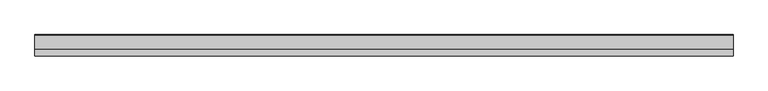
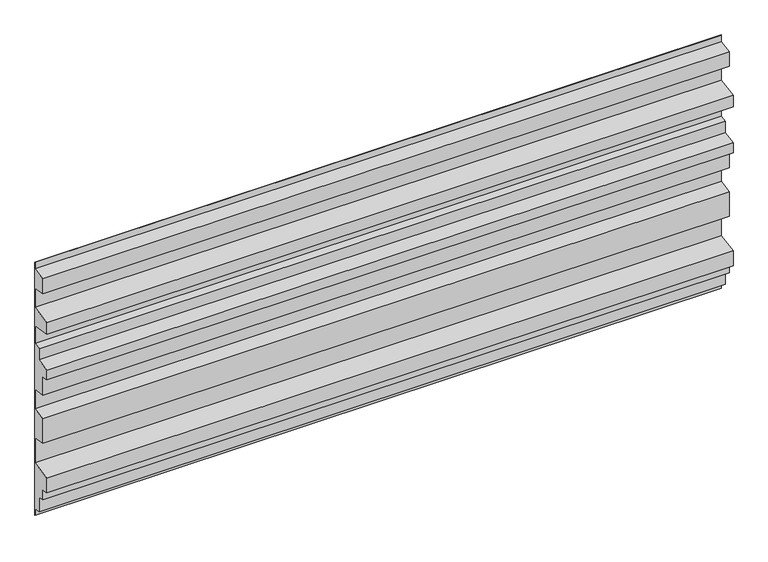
"""IFC4 building model written with IfcOpenShell, lengths in millimetres: plate geometry, ATELIERS 3S_NEW YORK MANHATTAN 780_HORIZONTAL : AZURO."""

from ifc_helpers import new_model, si_unit, frame, origin, place, context, project, spatial, polyline, outline, extrude, source, transform, mapped, element, save


def plate_61fd1416(model_context):
    return source(origin(), model_context, "Body", "SweptSolid", [
        extrude(outline(polyline([(-40.75, 752.9516131), (-0.8, 759.995876), (-0.8, 780.0), (0.0, 780.0), (0.0, 0.0), (-0.8, 0.0), (-0.8, 19.6941775), (-20.7501589, 23.211221), (-20.7501589, 68.2118488), (-40.7500015, 71.7384174), (-40.7500015, 101.7384166), (-60.7500001, 105.2649565), (-60.7500001, 150.8942812), (-0.75, 161.4739), (-0.75, 238.8445753), (-40.75, 245.8976546), (-40.75, 321.5269793), (-0.75, 328.5800585), (-0.75, 387.9507338), (-40.75, 395.003813), (-40.75, 450.003813), (-60.75, 453.5303526), (-60.75, 484.1596773), (-20.75, 491.2127566), (-20.75, 526.2127566), (-0.75, 529.7392962), (-0.75, 584.1099715), (-60.75, 594.6895903), (-60.75, 630.318915), (-0.75, 640.8985339), (-0.75, 700.2692092), (-40.75, 707.3222884), (-40.75, 752.9516131)])), frame((-1000.637242, 0.0, 0.0), z_axis=(1.0, 0.0, 0.0), x_axis=(0.0, 1.0, 0.0)), (0.0, 0.0, 1.0), 2001.2744839),
    ])


if __name__ == "__main__":
    model = new_model("IFC4")
    model_context = context("Model", 3, world=origin())
    ifc_project = project(units=[si_unit("LENGTHUNIT", "METRE", prefix="MILLI")], contexts=[model_context])
    site = spatial("IfcSite", under=ifc_project)
    building = spatial("IfcBuilding", under=site)
    placement = place(None, origin())
    plate_shape = plate_61fd1416(model_context)
    element("IfcPlate", 1, ObjectType="ATELIERS 3S_NEW YORK MANHATTAN 780_HORIZONTAL : AZURO", at=placement, inside=building, context=model_context, shape_type="MappedRepresentation", body=[
        mapped(plate_shape, transform((0.0, 0.0, 0.0), x_axis=(1.0, 0.0, 0.0), y_axis=(0.0, 1.0, 0.0), z_axis=(0.0, 0.0, 1.0))),
    ])
    save(model, "model.ifc")
